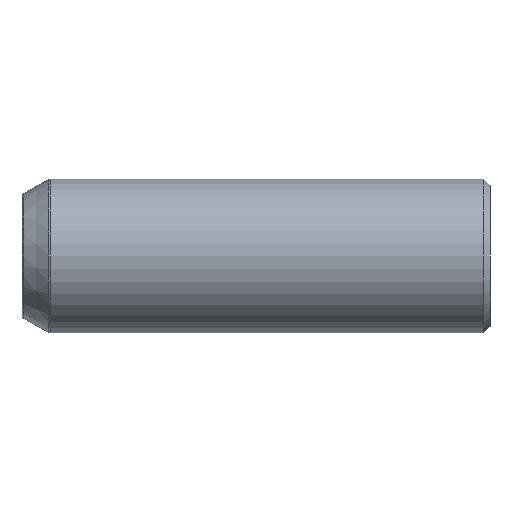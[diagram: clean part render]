
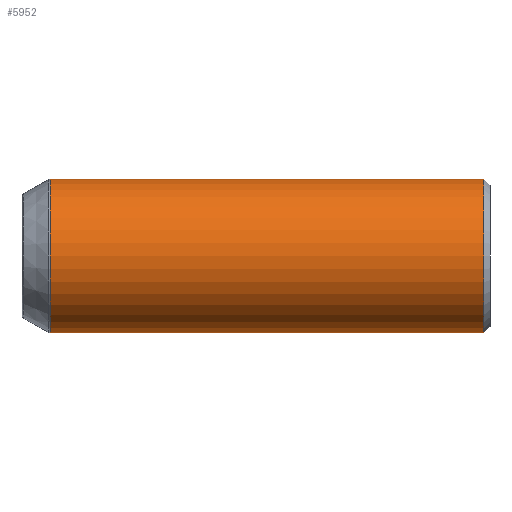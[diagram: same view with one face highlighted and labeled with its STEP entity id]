
A CAD part, left-side view. The second image highlights one B-rep face of the part: STEP entity #5952.
In plain terms, the highlighted cylindrical face has radius 12.5 mm (diameter 25 mm), a partial arc.
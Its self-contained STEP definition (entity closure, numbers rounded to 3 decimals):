
#1127 = DIRECTION ( 'NONE',  ( 0., 1., 0. ) ) ;
#1136 = DIRECTION ( 'NONE',  ( 0., 0., 1. ) ) ;
#1149 = CARTESIAN_POINT ( 'NONE',  ( -6.15, -6.112, 0. ) ) ;
#1196 = CARTESIAN_POINT ( 'NONE',  ( -6.15, 69.088, -12.5 ) ) ;
#1198 = DIRECTION ( 'NONE',  ( 0., -1., 0. ) ) ;
#1281 = CARTESIAN_POINT ( 'NONE',  ( -6.15, 69.088, 12.5 ) ) ;
#1286 = DIRECTION ( 'NONE',  ( 0., -1., 0. ) ) ;
#1292 = CARTESIAN_POINT ( 'NONE',  ( -6.15, 64.458, 0. ) ) ;
#1302 = DIRECTION ( 'NONE',  ( 0., -1., 0. ) ) ;
#1304 = DIRECTION ( 'NONE',  ( 0., 0., 1. ) ) ;
#2275 = VERTEX_POINT ( 'NONE', #4899 ) ;
#2280 = VERTEX_POINT ( 'NONE', #4901 ) ;
#2312 = VERTEX_POINT ( 'NONE', #4919 ) ;
#2315 = VERTEX_POINT ( 'NONE', #4950 ) ;
#2706 = ORIENTED_EDGE ( 'NONE', *, *, #3666, .T. ) ;
#2837 = ORIENTED_EDGE ( 'NONE', *, *, #3685, .T. ) ;
#2857 = ORIENTED_EDGE ( 'NONE', *, *, #3702, .F. ) ;
#2860 = ORIENTED_EDGE ( 'NONE', *, *, #3708, .T. ) ;
#3666 = EDGE_CURVE ( 'NONE', #2280, #2315, #5445, .T. ) ;
#3685 = EDGE_CURVE ( 'NONE', #2275, #2280, #5467, .T. ) ;
#3702 = EDGE_CURVE ( 'NONE', #2312, #2315, #5475, .T. ) ;
#3708 = EDGE_CURVE ( 'NONE', #2312, #2275, #5451, .T. ) ;
#4123 = EDGE_LOOP ( 'NONE', ( #2857, #2860, #2837, #2706 ) ) ;
#4899 = CARTESIAN_POINT ( 'NONE',  ( -6.15, 64.458, -12.5 ) ) ;
#4901 = CARTESIAN_POINT ( 'NONE',  ( -6.15, -6.112, -12.5 ) ) ;
#4919 = CARTESIAN_POINT ( 'NONE',  ( -6.15, 64.458, 12.5 ) ) ;
#4950 = CARTESIAN_POINT ( 'NONE',  ( -6.15, -6.112, 12.5 ) ) ;
#5429 = VECTOR ( 'NONE', #1198, 1000. ) ;
#5445 = CIRCLE ( 'NONE', #6477, 12.5 ) ;
#5451 = CIRCLE ( 'NONE', #6492, 12.5 ) ;
#5467 = LINE ( 'NONE', #1196, #5429 ) ;
#5475 = LINE ( 'NONE', #1281, #5479 ) ;
#5479 = VECTOR ( 'NONE', #1302, 1000. ) ;
#5952 = ADVANCED_FACE ( 'NONE', ( #6155 ), #6184, .T. ) ;
#6155 = FACE_OUTER_BOUND ( 'NONE', #4123, .T. ) ;
#6184 = CYLINDRICAL_SURFACE ( 'NONE', #6595, 12.5 ) ;
#6477 = AXIS2_PLACEMENT_3D ( 'NONE', #1149, #1127, #1136 ) ;
#6492 = AXIS2_PLACEMENT_3D ( 'NONE', #1292, #1286, #1304 ) ;
#6595 = AXIS2_PLACEMENT_3D ( 'NONE', #8965, #8938, #8968 ) ;
#8938 = DIRECTION ( 'NONE',  ( 0., -1., 0. ) ) ;
#8965 = CARTESIAN_POINT ( 'NONE',  ( -6.15, 69.088, 0. ) ) ;
#8968 = DIRECTION ( 'NONE',  ( 0., 0., -1. ) ) ;
